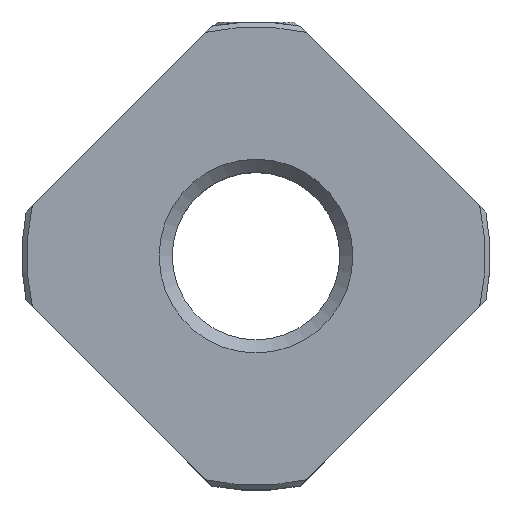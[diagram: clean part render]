
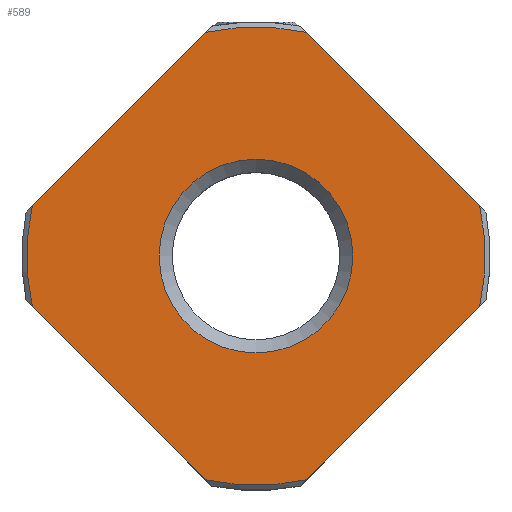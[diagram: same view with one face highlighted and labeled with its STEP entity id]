
A CAD part, top view. The second image highlights one B-rep face of the part: STEP entity #589.
In plain terms, the highlighted planar face has unit normal (0, 0, 1).
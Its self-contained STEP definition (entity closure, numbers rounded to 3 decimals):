
#32=PLANE('',#647);
#52=LINE('',#925,#88);
#53=LINE('',#929,#89);
#54=LINE('',#933,#90);
#55=LINE('',#937,#91);
#88=VECTOR('',#735,1000.);
#89=VECTOR('',#738,1000.);
#90=VECTOR('',#741,1000.);
#91=VECTOR('',#744,1000.);
#159=ORIENTED_EDGE('',*,*,#322,.F.);
#160=ORIENTED_EDGE('',*,*,#323,.T.);
#161=ORIENTED_EDGE('',*,*,#324,.F.);
#162=ORIENTED_EDGE('',*,*,#325,.T.);
#163=ORIENTED_EDGE('',*,*,#326,.F.);
#164=ORIENTED_EDGE('',*,*,#327,.T.);
#165=ORIENTED_EDGE('',*,*,#328,.F.);
#166=ORIENTED_EDGE('',*,*,#329,.T.);
#167=ORIENTED_EDGE('',*,*,#330,.T.);
#322=EDGE_CURVE('',#403,#404,#455,.T.);
#323=EDGE_CURVE('',#403,#405,#52,.T.);
#324=EDGE_CURVE('',#406,#405,#456,.T.);
#325=EDGE_CURVE('',#406,#407,#53,.T.);
#326=EDGE_CURVE('',#408,#407,#457,.T.);
#327=EDGE_CURVE('',#408,#409,#54,.T.);
#328=EDGE_CURVE('',#410,#409,#458,.T.);
#329=EDGE_CURVE('',#410,#404,#55,.T.);
#330=EDGE_CURVE('',#411,#411,#459,.T.);
#403=VERTEX_POINT('',#923);
#404=VERTEX_POINT('',#924);
#405=VERTEX_POINT('',#926);
#406=VERTEX_POINT('',#928);
#407=VERTEX_POINT('',#930);
#408=VERTEX_POINT('',#932);
#409=VERTEX_POINT('',#934);
#410=VERTEX_POINT('',#936);
#411=VERTEX_POINT('',#939);
#455=CIRCLE('',#648,7.1);
#456=CIRCLE('',#649,7.1);
#457=CIRCLE('',#650,7.1);
#458=CIRCLE('',#651,7.1);
#459=CIRCLE('',#652,3.);
#484=EDGE_LOOP('',(#159,#160,#161,#162,#163,#164,#165,#166));
#485=EDGE_LOOP('',(#167));
#534=FACE_BOUND('',#484,.T.);
#535=FACE_BOUND('',#485,.T.);
#589=ADVANCED_FACE('',(#534,#535),#32,.F.);
#647=AXIS2_PLACEMENT_3D('',#921,#731,#732);
#648=AXIS2_PLACEMENT_3D('',#922,#733,#734);
#649=AXIS2_PLACEMENT_3D('',#927,#736,#737);
#650=AXIS2_PLACEMENT_3D('',#931,#739,#740);
#651=AXIS2_PLACEMENT_3D('',#935,#742,#743);
#652=AXIS2_PLACEMENT_3D('',#938,#745,#746);
#731=DIRECTION('',(0.,0.,-1.));
#732=DIRECTION('',(-1.,0.,0.));
#733=DIRECTION('',(0.,0.,-1.));
#734=DIRECTION('',(-1.,0.,0.));
#735=DIRECTION('',(-0.707,-0.707,0.));
#736=DIRECTION('',(0.,0.,-1.));
#737=DIRECTION('',(-1.,0.,0.));
#738=DIRECTION('',(0.707,-0.707,0.));
#739=DIRECTION('',(0.,0.,-1.));
#740=DIRECTION('',(-1.,0.,0.));
#741=DIRECTION('',(0.707,0.707,0.));
#742=DIRECTION('',(0.,0.,-1.));
#743=DIRECTION('',(-1.,0.,0.));
#744=DIRECTION('',(-0.707,0.707,0.));
#745=DIRECTION('',(0.,0.,-1.));
#746=DIRECTION('',(-1.,0.,0.));
#921=CARTESIAN_POINT('',(0.,0.,5.));
#922=CARTESIAN_POINT('',(0.,0.,5.));
#923=CARTESIAN_POINT('',(-1.558,6.927,5.));
#924=CARTESIAN_POINT('',(1.558,6.927,5.));
#925=CARTESIAN_POINT('',(0.,8.485,5.));
#926=CARTESIAN_POINT('',(-6.927,1.558,5.));
#927=CARTESIAN_POINT('',(0.,0.,5.));
#928=CARTESIAN_POINT('',(-6.927,-1.558,5.));
#929=CARTESIAN_POINT('',(-8.485,0.,5.));
#930=CARTESIAN_POINT('',(-1.558,-6.927,5.));
#931=CARTESIAN_POINT('',(0.,0.,5.));
#932=CARTESIAN_POINT('',(1.558,-6.927,5.));
#933=CARTESIAN_POINT('',(0.,-8.485,5.));
#934=CARTESIAN_POINT('',(6.927,-1.558,5.));
#935=CARTESIAN_POINT('',(0.,0.,5.));
#936=CARTESIAN_POINT('',(6.927,1.558,5.));
#937=CARTESIAN_POINT('',(8.485,0.,5.));
#938=CARTESIAN_POINT('',(0.,0.,5.));
#939=CARTESIAN_POINT('',(-3.,0.,5.));
